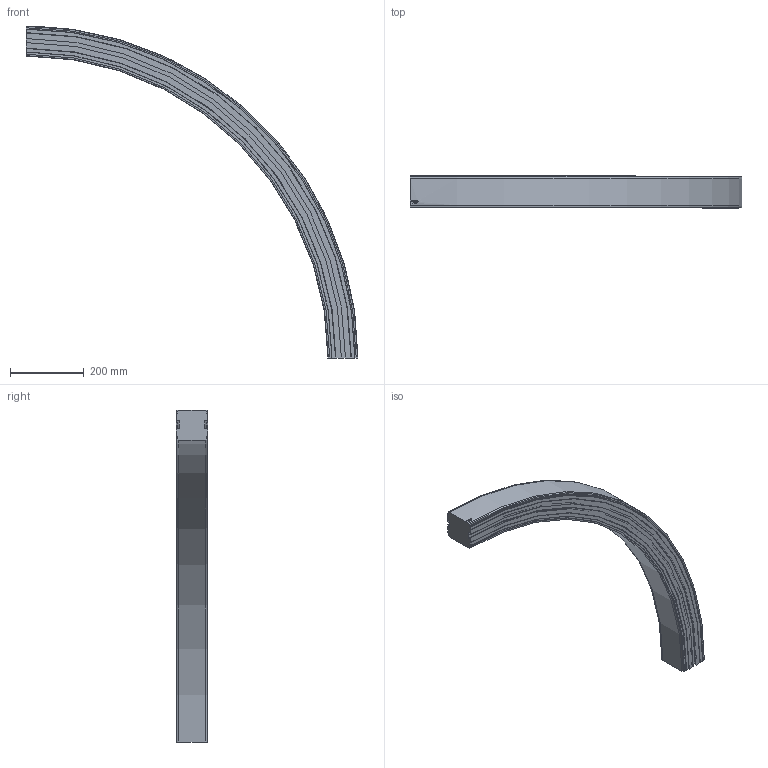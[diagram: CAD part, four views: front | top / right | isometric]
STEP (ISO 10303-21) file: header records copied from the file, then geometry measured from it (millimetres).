
FILE_DESCRIPTION((''),'2;1');
FILE_NAME('C:\Vault Klient\Projekt\Koncept konstruktion\Serie 830 Balk\830-5690_DOWN.stp','2009-11-27T12:21:52',('Mathias'),(''),'Autodesk Inventor 2010','Autodesk Inventor 2010','');
FILE_SCHEMA(('AUTOMOTIVE_DESIGN { 1 0 10303 214 1 1 1 1 }'));
Length unit declared in the file: millimetre
Products named in the file (1): 830-5690_DOWN
Bounding box: 899.5 x 86 x 899.5 mm (x, y, z)
Volume: 8966205.9 mm3; surface area: 564619.3 mm2
Topology: 1 solids, 1 shells, 93 faces, 258 edges, 172 vertices
Faces by surface type: plane 40, cylinder 23, bspline 14, cone 12, torus 4
Entity records: 3464 total; most frequent: CARTESIAN_POINT 1029, ORIENTED_EDGE 516, DIRECTION 472, EDGE_CURVE 258, VERTEX_POINT 172, AXIS2_PLACEMENT_3D 162, VECTOR 148, LINE 148
